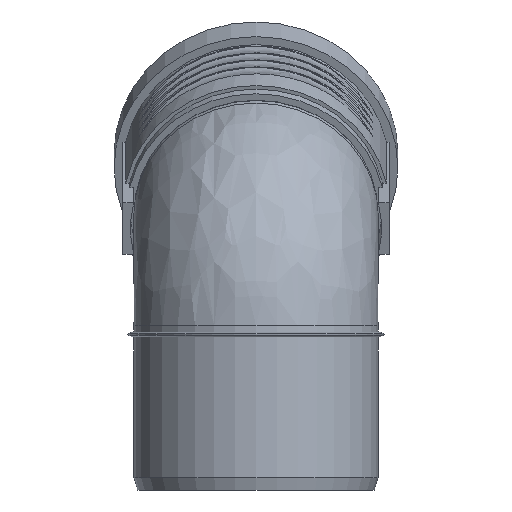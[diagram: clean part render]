
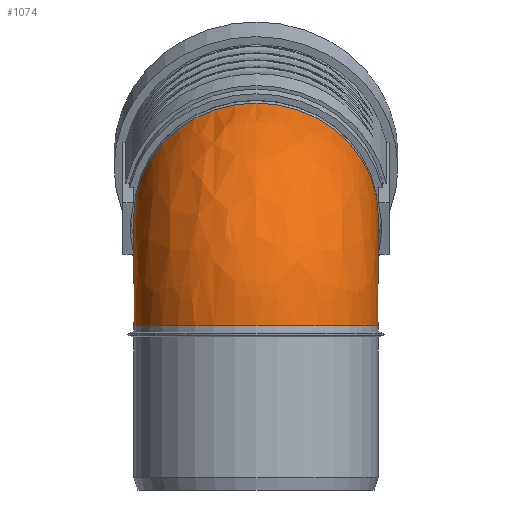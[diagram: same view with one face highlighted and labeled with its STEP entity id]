
A CAD part, left-side view. The second image highlights one B-rep face of the part: STEP entity #1074.
In plain terms, the highlighted free-form (B-spline) face has degree [2, 2] with [9, 9] control points.
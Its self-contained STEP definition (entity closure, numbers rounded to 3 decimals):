
#142=(
BOUNDED_SURFACE()
B_SPLINE_SURFACE(2,2,((#1588,#1589,#1590,#1591,#1592,#1593,#1594,#1595,
#1596),(#1597,#1598,#1599,#1600,#1601,#1602,#1603,#1604,#1605),(#1606,#1607,
#1608,#1609,#1610,#1611,#1612,#1613,#1614),(#1615,#1616,#1617,#1618,#1619,
#1620,#1621,#1622,#1623),(#1624,#1625,#1626,#1627,#1628,#1629,#1630,#1631,
#1632),(#1633,#1634,#1635,#1636,#1637,#1638,#1639,#1640,#1641),(#1642,#1643,
#1644,#1645,#1646,#1647,#1648,#1649,#1650),(#1651,#1652,#1653,#1654,#1655,
#1656,#1657,#1658,#1659),(#1660,#1661,#1662,#1663,#1664,#1665,#1666,#1667,
#1668)),.UNSPECIFIED.,.T.,.T.,.F.)
B_SPLINE_SURFACE_WITH_KNOTS((3,2,2,2,3),(3,2,2,2,3),(-3.142,
-1.571,0.,1.571,3.142),(-3.142,
-1.571,0.,1.571,3.142),.UNSPECIFIED.)
GEOMETRIC_REPRESENTATION_ITEM()
RATIONAL_B_SPLINE_SURFACE(((1.,0.707,1.,0.707,1.,
0.707,1.,0.707,1.),(0.707,0.5,0.707,
0.5,0.707,0.5,0.707,0.5,0.707),(1.,
0.707,1.,0.707,1.,0.707,1.,0.707,
1.),(0.707,0.5,0.707,0.5,0.707,0.5,
0.707,0.5,0.707),(1.,0.707,1.,0.707,
1.,0.707,1.,0.707,1.),(0.707,0.5,0.707,
0.5,0.707,0.5,0.707,0.5,0.707),(1.,
0.707,1.,0.707,1.,0.707,1.,0.707,
1.),(0.707,0.5,0.707,0.5,0.707,0.5,
0.707,0.5,0.707),(1.,0.707,1.,0.707,
1.,0.707,1.,0.707,1.)))
REPRESENTATION_ITEM($)
SURFACE()
);
#260=FACE_OUTER_BOUND($,#331,.T.);
#331=EDGE_LOOP($,(#734,#735));
#425=CIRCLE($,#1158,55.1);
#426=CIRCLE($,#1159,55.1);
#480=VERTEX_POINT($,#1586);
#586=EDGE_CURVE($,#480,#480,#425,.T.);
#587=EDGE_CURVE($,#480,#480,#426,.T.);
#734=ORIENTED_EDGE($,*,*,#586,.T.);
#735=ORIENTED_EDGE($,*,*,#587,.F.);
#1074=ADVANCED_FACE($,(#260),#142,.F.);
#1158=AXIS2_PLACEMENT_3D($,#1587,#1307,#1308);
#1159=AXIS2_PLACEMENT_3D($,#1669,#1309,#1310);
#1307=DIRECTION('center_axis',(-0.924,0.,-0.383));
#1308=DIRECTION('ref_axis',(-0.383,0.,0.924));
#1309=DIRECTION('center_axis',(0.,0.,-1.));
#1310=DIRECTION('ref_axis',(-1.,0.,0.));
#1586=CARTESIAN_POINT('',(55.1,0.,74.1));
#1587=CARTESIAN_POINT('Origin',(34.014,0.,125.006));
#1588=CARTESIAN_POINT('Ctrl Pts',(55.1,0.,74.1));
#1589=CARTESIAN_POINT('Ctrl Pts',(55.1,0.,74.1));
#1590=CARTESIAN_POINT('Ctrl Pts',(55.1,0.,74.1));
#1591=CARTESIAN_POINT('Ctrl Pts',(55.1,0.,74.1));
#1592=CARTESIAN_POINT('Ctrl Pts',(55.1,0.,74.1));
#1593=CARTESIAN_POINT('Ctrl Pts',(55.1,0.,74.1));
#1594=CARTESIAN_POINT('Ctrl Pts',(55.1,0.,74.1));
#1595=CARTESIAN_POINT('Ctrl Pts',(55.1,0.,74.1));
#1596=CARTESIAN_POINT('Ctrl Pts',(55.1,0.,74.1));
#1597=CARTESIAN_POINT('Ctrl Pts',(55.1,-55.1,74.1));
#1598=CARTESIAN_POINT('Ctrl Pts',(55.1,-55.1,74.1));
#1599=CARTESIAN_POINT('Ctrl Pts',(55.1,-55.1,74.1));
#1600=CARTESIAN_POINT('Ctrl Pts',(55.1,-55.1,74.1));
#1601=CARTESIAN_POINT('Ctrl Pts',(55.1,-55.1,74.1));
#1602=CARTESIAN_POINT('Ctrl Pts',(55.1,-55.1,74.1));
#1603=CARTESIAN_POINT('Ctrl Pts',(55.1,-55.1,74.1));
#1604=CARTESIAN_POINT('Ctrl Pts',(55.1,-55.1,74.1));
#1605=CARTESIAN_POINT('Ctrl Pts',(55.1,-55.1,74.1));
#1606=CARTESIAN_POINT('Ctrl Pts',(55.1,-55.1,19.));
#1607=CARTESIAN_POINT('Ctrl Pts',(0.,-55.1,19.));
#1608=CARTESIAN_POINT('Ctrl Pts',(0.,-55.1,74.1));
#1609=CARTESIAN_POINT('Ctrl Pts',(0.,-55.1,129.2));
#1610=CARTESIAN_POINT('Ctrl Pts',(55.1,-55.1,129.2));
#1611=CARTESIAN_POINT('Ctrl Pts',(110.2,-55.1,129.2));
#1612=CARTESIAN_POINT('Ctrl Pts',(110.2,-55.1,74.1));
#1613=CARTESIAN_POINT('Ctrl Pts',(110.2,-55.1,19.));
#1614=CARTESIAN_POINT('Ctrl Pts',(55.1,-55.1,19.));
#1615=CARTESIAN_POINT('Ctrl Pts',(55.1,-55.1,-36.1));
#1616=CARTESIAN_POINT('Ctrl Pts',(-55.1,-55.1,-36.1));
#1617=CARTESIAN_POINT('Ctrl Pts',(-55.1,-55.1,74.1));
#1618=CARTESIAN_POINT('Ctrl Pts',(-55.1,-55.1,184.3));
#1619=CARTESIAN_POINT('Ctrl Pts',(55.1,-55.1,184.3));
#1620=CARTESIAN_POINT('Ctrl Pts',(165.3,-55.1,184.3));
#1621=CARTESIAN_POINT('Ctrl Pts',(165.3,-55.1,74.1));
#1622=CARTESIAN_POINT('Ctrl Pts',(165.3,-55.1,-36.1));
#1623=CARTESIAN_POINT('Ctrl Pts',(55.1,-55.1,-36.1));
#1624=CARTESIAN_POINT('Ctrl Pts',(55.1,0.,-36.1));
#1625=CARTESIAN_POINT('Ctrl Pts',(-55.1,0.,-36.1));
#1626=CARTESIAN_POINT('Ctrl Pts',(-55.1,0.,74.1));
#1627=CARTESIAN_POINT('Ctrl Pts',(-55.1,0.,184.3));
#1628=CARTESIAN_POINT('Ctrl Pts',(55.1,0.,184.3));
#1629=CARTESIAN_POINT('Ctrl Pts',(165.3,0.,184.3));
#1630=CARTESIAN_POINT('Ctrl Pts',(165.3,0.,74.1));
#1631=CARTESIAN_POINT('Ctrl Pts',(165.3,0.,-36.1));
#1632=CARTESIAN_POINT('Ctrl Pts',(55.1,0.,-36.1));
#1633=CARTESIAN_POINT('Ctrl Pts',(55.1,55.1,-36.1));
#1634=CARTESIAN_POINT('Ctrl Pts',(-55.1,55.1,-36.1));
#1635=CARTESIAN_POINT('Ctrl Pts',(-55.1,55.1,74.1));
#1636=CARTESIAN_POINT('Ctrl Pts',(-55.1,55.1,184.3));
#1637=CARTESIAN_POINT('Ctrl Pts',(55.1,55.1,184.3));
#1638=CARTESIAN_POINT('Ctrl Pts',(165.3,55.1,184.3));
#1639=CARTESIAN_POINT('Ctrl Pts',(165.3,55.1,74.1));
#1640=CARTESIAN_POINT('Ctrl Pts',(165.3,55.1,-36.1));
#1641=CARTESIAN_POINT('Ctrl Pts',(55.1,55.1,-36.1));
#1642=CARTESIAN_POINT('Ctrl Pts',(55.1,55.1,19.));
#1643=CARTESIAN_POINT('Ctrl Pts',(0.,55.1,19.));
#1644=CARTESIAN_POINT('Ctrl Pts',(0.,55.1,74.1));
#1645=CARTESIAN_POINT('Ctrl Pts',(0.,55.1,129.2));
#1646=CARTESIAN_POINT('Ctrl Pts',(55.1,55.1,129.2));
#1647=CARTESIAN_POINT('Ctrl Pts',(110.2,55.1,129.2));
#1648=CARTESIAN_POINT('Ctrl Pts',(110.2,55.1,74.1));
#1649=CARTESIAN_POINT('Ctrl Pts',(110.2,55.1,19.));
#1650=CARTESIAN_POINT('Ctrl Pts',(55.1,55.1,19.));
#1651=CARTESIAN_POINT('Ctrl Pts',(55.1,55.1,74.1));
#1652=CARTESIAN_POINT('Ctrl Pts',(55.1,55.1,74.1));
#1653=CARTESIAN_POINT('Ctrl Pts',(55.1,55.1,74.1));
#1654=CARTESIAN_POINT('Ctrl Pts',(55.1,55.1,74.1));
#1655=CARTESIAN_POINT('Ctrl Pts',(55.1,55.1,74.1));
#1656=CARTESIAN_POINT('Ctrl Pts',(55.1,55.1,74.1));
#1657=CARTESIAN_POINT('Ctrl Pts',(55.1,55.1,74.1));
#1658=CARTESIAN_POINT('Ctrl Pts',(55.1,55.1,74.1));
#1659=CARTESIAN_POINT('Ctrl Pts',(55.1,55.1,74.1));
#1660=CARTESIAN_POINT('Ctrl Pts',(55.1,0.,74.1));
#1661=CARTESIAN_POINT('Ctrl Pts',(55.1,0.,74.1));
#1662=CARTESIAN_POINT('Ctrl Pts',(55.1,0.,74.1));
#1663=CARTESIAN_POINT('Ctrl Pts',(55.1,0.,74.1));
#1664=CARTESIAN_POINT('Ctrl Pts',(55.1,0.,74.1));
#1665=CARTESIAN_POINT('Ctrl Pts',(55.1,0.,74.1));
#1666=CARTESIAN_POINT('Ctrl Pts',(55.1,0.,74.1));
#1667=CARTESIAN_POINT('Ctrl Pts',(55.1,0.,74.1));
#1668=CARTESIAN_POINT('Ctrl Pts',(55.1,0.,74.1));
#1669=CARTESIAN_POINT('Origin',(0.,0.,74.1));
